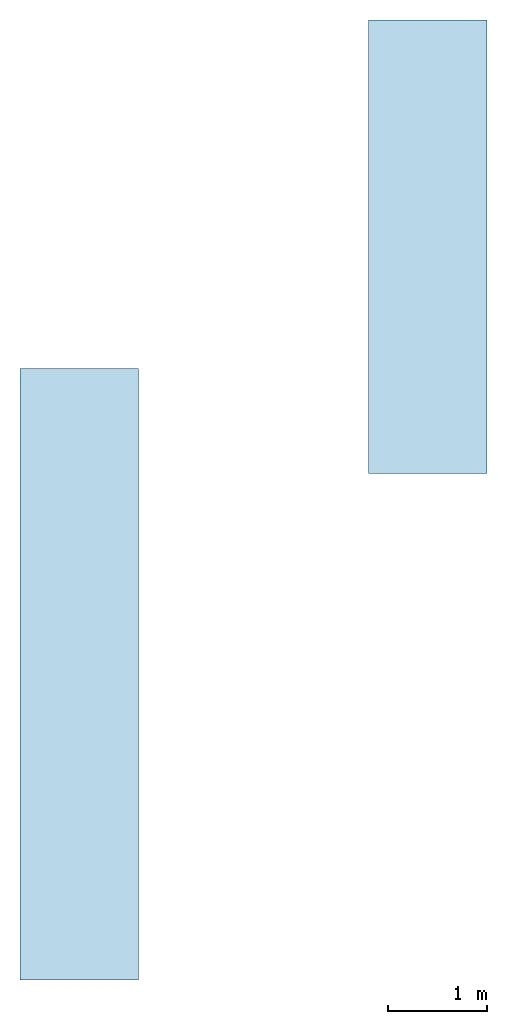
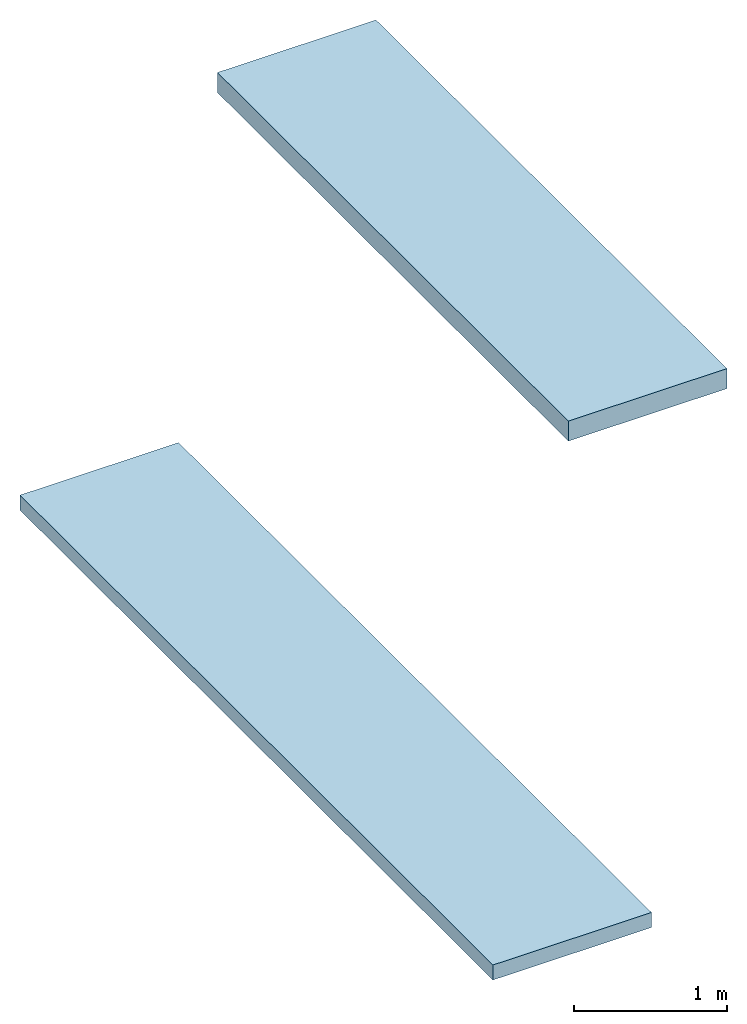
# One storey: 2 slabs.
"""IFC2X3 building model written with IfcOpenShell, lengths in millimetres."""

from ifc_helpers import new_model, entity, si_unit, converted_unit, derived_unit, direction, frame, frame_2d, origin, origin_2d_with_axis, place, context, subcontext, project, spatial, rectangle, extrude, material, layer, layer_set, layer_usage, type_object, element, save


model = new_model("IFC2X3")

# Units and contexts
model_context = context("Model", 3, precision=0.01, world=origin(), true_north=direction((6.12303176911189e-17, 1.0)))
context_of_model = context(None, 3, precision=0.01, world=origin(), true_north=direction((6.12303176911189e-17, 1.0)))
body_context = subcontext(model_context, "Body", "Model", "MODEL_VIEW")
ifc_project = project(units=[si_unit("LENGTHUNIT", "METRE", prefix="MILLI"), si_unit("AREAUNIT", "SQUARE_METRE"), si_unit("VOLUMEUNIT", "CUBIC_METRE"), converted_unit("PLANEANGLEUNIT", "DEGREE", entity("IfcRatioMeasure", 0.0174532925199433), si_unit("PLANEANGLEUNIT", "RADIAN"), dimensions=[0, 0, 0, 0, 0, 0, 0]), si_unit("MASSUNIT", "GRAM", prefix="KILO"), derived_unit("MASSDENSITYUNIT", [(si_unit("MASSUNIT", "GRAM", prefix="KILO"), 1), (si_unit("LENGTHUNIT", "METRE"), -3)]), derived_unit("MOMENTOFINERTIAUNIT", [(si_unit("LENGTHUNIT", "METRE"), 4)]), si_unit("TIMEUNIT", "SECOND"), si_unit("FREQUENCYUNIT", "HERTZ"), si_unit("THERMODYNAMICTEMPERATUREUNIT", "DEGREE_CELSIUS"), derived_unit("THERMALTRANSMITTANCEUNIT", [(si_unit("MASSUNIT", "GRAM", prefix="KILO"), 1), (si_unit("THERMODYNAMICTEMPERATUREUNIT", "KELVIN"), -1), (si_unit("TIMEUNIT", "SECOND"), -3)]), derived_unit("VOLUMETRICFLOWRATEUNIT", [(si_unit("LENGTHUNIT", "METRE"), 3), (si_unit("TIMEUNIT", "SECOND"), -1)]), si_unit("ELECTRICCURRENTUNIT", "AMPERE"), si_unit("ELECTRICVOLTAGEUNIT", "VOLT"), si_unit("POWERUNIT", "WATT"), si_unit("FORCEUNIT", "NEWTON", prefix="KILO"), si_unit("ILLUMINANCEUNIT", "LUX"), si_unit("LUMINOUSFLUXUNIT", "LUMEN"), si_unit("LUMINOUSINTENSITYUNIT", "CANDELA"), derived_unit("USERDEFINED", [(si_unit("MASSUNIT", "GRAM", prefix="KILO"), -1), (si_unit("LENGTHUNIT", "METRE"), -2), (si_unit("TIMEUNIT", "SECOND"), 3), (si_unit("LUMINOUSFLUXUNIT", "LUMEN"), 1)]), derived_unit("LINEARVELOCITYUNIT", [(si_unit("LENGTHUNIT", "METRE"), 1), (si_unit("TIMEUNIT", "SECOND"), -1)]), si_unit("PRESSUREUNIT", "PASCAL"), derived_unit("USERDEFINED", [(si_unit("LENGTHUNIT", "METRE"), -2), (si_unit("MASSUNIT", "GRAM", prefix="KILO"), 1), (si_unit("TIMEUNIT", "SECOND"), -2)]), derived_unit("LINEARFORCEUNIT", [(si_unit("MASSUNIT", "GRAM", prefix="KILO"), 1), (si_unit("LENGTHUNIT", "METRE"), 1), (si_unit("TIMEUNIT", "SECOND"), -2), (si_unit("LENGTHUNIT", "METRE"), -1)]), derived_unit("PLANARFORCEUNIT", [(si_unit("MASSUNIT", "GRAM", prefix="KILO"), 1), (si_unit("LENGTHUNIT", "METRE"), 1), (si_unit("TIMEUNIT", "SECOND"), -2), (si_unit("LENGTHUNIT", "METRE"), -2)])], contexts=[model_context, context_of_model])

# Site, building, storey
site_placement = place(None, origin())
site = spatial("IfcSite", under=ifc_project, at=site_placement, Name="Default", CompositionType="ELEMENT")
building_placement = place(site_placement, origin())
building = spatial("IfcBuilding", under=site, at=building_placement, CompositionType="ELEMENT")
storey_placement = place(building_placement, origin())
storey = spatial("IfcBuildingStorey", under=building, at=storey_placement, Name="Begane grond", CompositionType="ELEMENT", Elevation=0.0)

# Slabs
ifc_material = material(Name="Knauf Insulation_Multifit 035 Ecose® glaswol")
ifc_layer_1 = layer(ifc_material, 120.0)
ifc_layer_set_1 = layer_set([ifc_layer_1], Name="Floor:NLRS_23_FL_Multifit 035_120x1200x6200mm")
ifc_layer_usage_1 = layer_usage(ifc_layer_set_1, "AXIS3", "POSITIVE", 0.0)
slab_type_1 = type_object("IfcSlabType", Name="Floor:NLRS_23_FL_Multifit 035_120x1200x6200mm", PredefinedType="FLOOR", material=ifc_layer_set_1)
slab_1_placement = place(storey_placement, origin())
element("IfcSlab", 1, at=slab_1_placement, inside=storey, type_object=slab_type_1, material=ifc_layer_usage_1, Name="Floor:NLRS_23_FL_Multifit 035_120x1200x6200mm:2494", ObjectType="Floor:NLRS_23_FL_Multifit 035_120x1200x6200mm", PredefinedType="FLOOR", context=body_context, shape_type="SweptSolid", body=[
    extrude(rectangle(XDim=6200.0, YDim=1200.0, at=origin_2d_with_axis()), frame((-2754.48052695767, 2061.27052373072, 0.0), z_axis=(0.0, 0.0, -1.0), x_axis=(0.0, 1.0, 0.0)), (0.0, 0.0, 1.0), 120.0),
])
ifc_layer_2 = layer(ifc_material, 160.0)
ifc_layer_set_2 = layer_set([ifc_layer_2], Name="Floor:NLRS_23_FL_Multifit 035_160x1200x4600mm")
ifc_layer_usage_2 = layer_usage(ifc_layer_set_2, "AXIS3", "POSITIVE", 0.0)
slab_type_2 = type_object("IfcSlabType", Name="Floor:NLRS_23_FL_Multifit 035_160x1200x4600mm", PredefinedType="FLOOR", material=ifc_layer_set_2)
slab_2_placement = place(storey_placement, origin())
element("IfcSlab", 2, at=slab_2_placement, inside=storey, type_object=slab_type_2, material=ifc_layer_usage_2, Name="Floor:NLRS_23_FL_Multifit 035_160x1200x4600mm:3665", ObjectType="Floor:NLRS_23_FL_Multifit 035_160x1200x4600mm", PredefinedType="FLOOR", context=body_context, shape_type="SweptSolid", body=[
    extrude(rectangle(XDim=4600.0, YDim=1200.0, at=frame_2d((1.13686837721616e-12, 0.0), x_axis=(1.0, 0.0))), frame((781.053378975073, 6396.80442966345, 0.0), z_axis=(0.0, 0.0, -1.0), x_axis=(0.0, 1.0, 0.0)), (0.0, 0.0, 1.0), 160.0),
])

save(model, "model.ifc")
